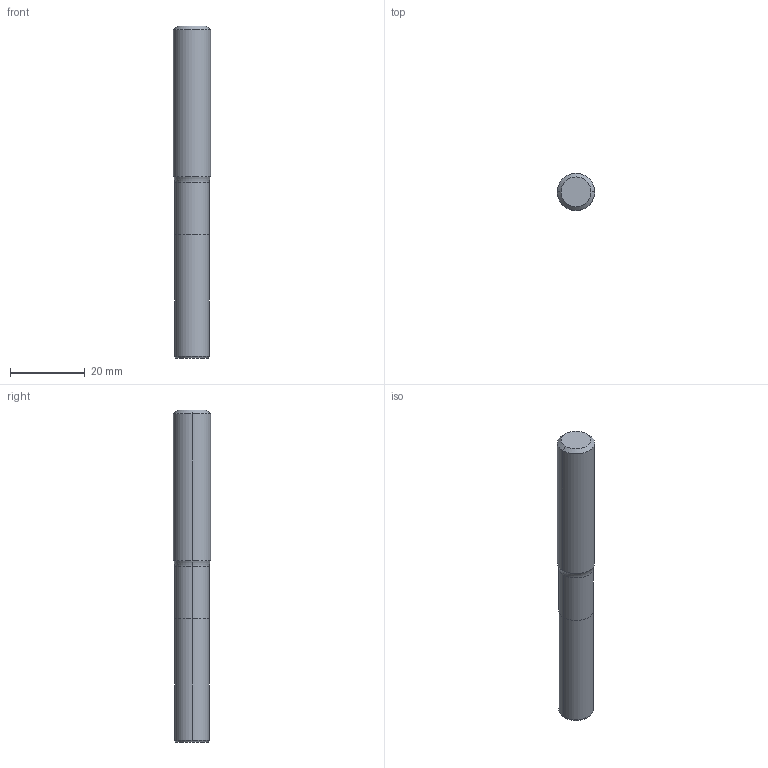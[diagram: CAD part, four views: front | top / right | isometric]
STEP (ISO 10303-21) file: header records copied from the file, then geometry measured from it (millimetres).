
FILE_DESCRIPTION (( 'STEP AP214' ), '1' );
FILE_NAME ('817.093.00_3D-model.step', '2022-02-23T23:49:26', ( '' ), ( '' ), 'SwSTEP 2.0', 'SolidWorks 2020', '' );
FILE_SCHEMA (( 'AUTOMOTIVE_DESIGN' ));
Length unit declared in the file: millimetre
Products named in the file (3): 817.093.00_3D-model; CUT-3D^Baugr128; NOCUT-3D^Baugr128
Assembly tree (2 placements, depth 2):
  817.093.00_3D-model
    CUT-3D^Baugr128
    NOCUT-3D^Baugr128
Bounding box: 10 x 10 x 89 mm (x, y, z)
Volume: 6463.1 mm3; surface area: 2948.3 mm2
Topology: 2 solids, 2 shells, 16 faces, 28 edges, 16 vertices
Faces by surface type: cylinder 6, cone 4, plane 4, torus 2
Entity records: 508 total; most frequent: DIRECTION 94, CARTESIAN_POINT 68, ORIENTED_EDGE 56, AXIS2_PLACEMENT_3D 42, EDGE_CURVE 28, CIRCLE 18, VERTEX_POINT 16, FACE_OUTER_BOUND 16
